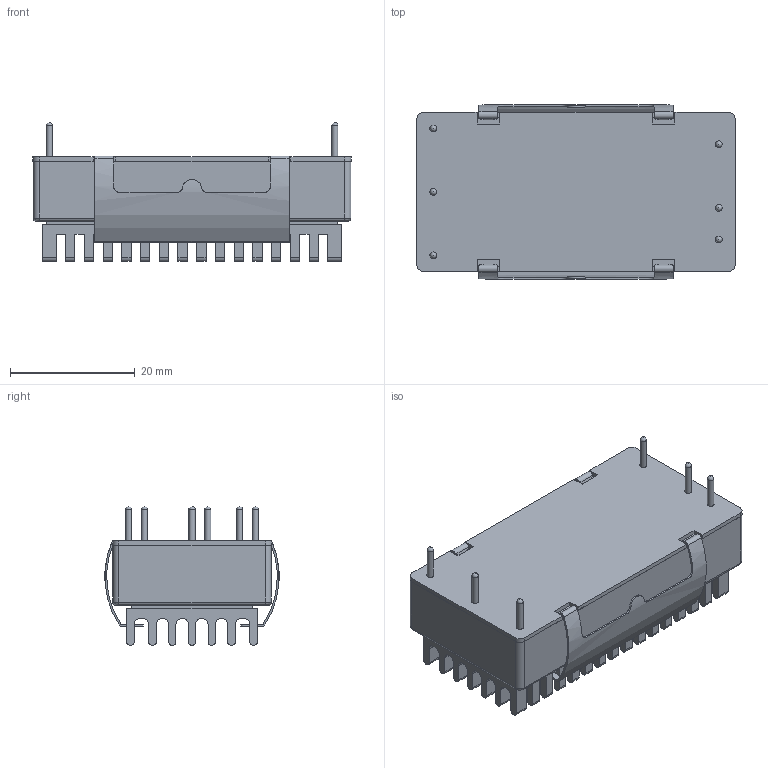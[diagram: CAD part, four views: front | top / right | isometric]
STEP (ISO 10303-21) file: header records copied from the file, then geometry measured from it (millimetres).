
FILE_DESCRIPTION(/* description */ (''),/* implementation_level */ '2;1');
FILE_NAME(/* name */ 'C:\Users\CALLIOPE\Documents\Inventor\專案部\MKWI50(高志明)\3D尺寸外觀\型錄用-STEP檔\with Heatsink﹝MKW40(12V&48V)+MKWI40(48V)﹞.stp',/* time_stamp */ '2015-04-02T15:45:01+08:00',/* author */ ('CALLIOPE'),/* organization */ (''),/* preprocessor_version */ 'ST-DEVELOPER v15.6',/* originating_system */ 'Autodesk Inventor 2015',/* authorisation */ '');
FILE_SCHEMA (('AUTOMOTIVE_DESIGN { 1 0 10303 214 3 1 1 }'));
Length unit declared in the file: millimetre
Products named in the file (2): with Heatsink﹝MKW40(12V&48V)+MKWI40(48V)\X2\FE5E
\X0\(包膜); with Heatsink﹝MKW40(12V&48V)+MKWI40(48V)﹞
Assembly tree (1 placements, depth 2):
  with Heatsink﹝MKW40(12V&48V)+MKWI40(48V)﹞
    with Heatsink﹝MKW40(12V&48V)+MKWI40(48V)\X2\FE5E
\X0\(包膜)
Bounding box: 50.95 x 27.92 x 22.25 mm (x, y, z)
Volume: 5447.3 mm3; surface area: 12726.8 mm2
Topology: 7 solids, 7 shells, 928 faces, 2588 edges, 1642 vertices
Faces by surface type: plane 540, cylinder 374, sphere 10, bspline 4
Full cylindrical faces by diameter (mm): 1 x6, 1.1 x6
Entity records: 29934 total; most frequent: CARTESIAN_POINT 5483, DIRECTION 5246, ORIENTED_EDGE 5120, EDGE_CURVE 2560, AXIS2_PLACEMENT_3D 1795, LINE 1656, VECTOR 1656, VERTEX_POINT 1636
